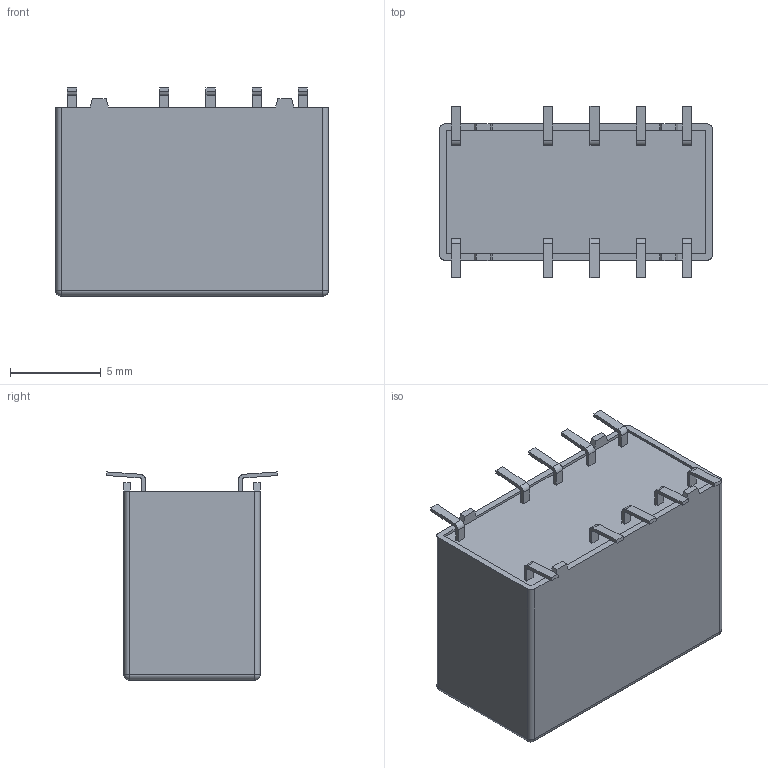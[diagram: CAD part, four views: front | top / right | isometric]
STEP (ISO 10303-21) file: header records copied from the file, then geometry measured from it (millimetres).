
FILE_DESCRIPTION((''),'2;1');
FILE_NAME('C-7-1393788-2','2022-05-13T06:08:28',('workeradm'),('TE Connectivity Ltd.'),'CREO PARAMETRIC BY PTC INC, 2021072','CREO PARAMETRIC BY PTC INC, 2021072','');
FILE_SCHEMA(('AUTOMOTIVE_DESIGN { 1 0 10303 214 1 1 1 1 }'));
Length unit declared in the file: millimetre
Products named in the file (1): C-7-1393788-2
Bounding box: 15 x 9.43 x 11.45 mm (x, y, z)
Volume: 1157.2 mm3; surface area: 733.3 mm2
Topology: 1 solids, 1 shells, 128 faces, 336 edges, 220 vertices
Faces by surface type: plane 96, cylinder 28, sphere 4
Entity records: 4962 total; most frequent: CARTESIAN_POINT 686, ORIENTED_EDGE 672, DIRECTION 648, PRESENTATION_STYLE_ASSIGNMENT 337, STYLED_ITEM 337, CURVE_STYLE 336, EDGE_CURVE 336, VECTOR 280
